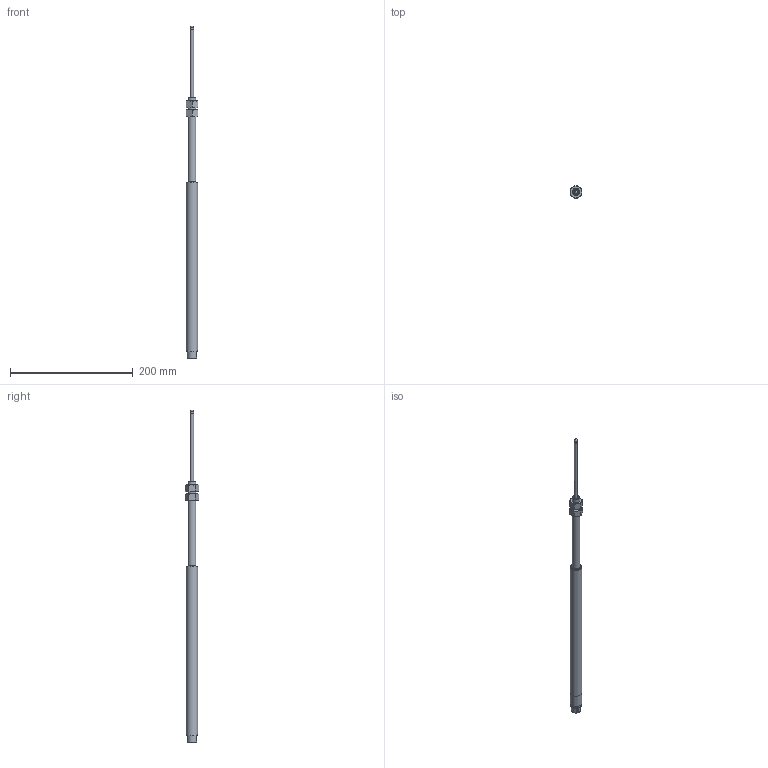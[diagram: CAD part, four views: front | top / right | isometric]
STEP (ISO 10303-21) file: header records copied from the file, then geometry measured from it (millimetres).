
FILE_DESCRIPTION(/* description */ (''),/* implementation_level */ '2;1');
FILE_NAME(/* name */ 'C:\Users\Justin\Documents\CAD Drawings\The Sensor Connection\3D\LVDT\GH SERIES\GH-750-A-XXXX\GH-750-A-2000\GH-750-A-2000 ASS''Y.step',/* time_stamp */ '2019-02-28T14:55:38-05:00',/* author */ ('Justin'),/* organization */ (''),/* preprocessor_version */ 'ST-DEVELOPER v17.2',/* originating_system */ 'Autodesk Inventor 2019',/* authorisation */ '');
FILE_SCHEMA (('AUTOMOTIVE_DESIGN { 1 0 10303 214 3 1 1 }'));
Length unit declared in the file: inch
Products named in the file (4): GH-750-A-2000 ASS'Y; GH-750-A-2000 HOUSING_SW; GH-750-A-2000 SHAFT_SW; AS 2465 - 1/2  UNF
Assembly tree (4 placements, depth 2):
  GH-750-A-2000 ASS'Y
    GH-750-A-2000 HOUSING_SW
    GH-750-A-2000 SHAFT_SW
    AS 2465 - 1/2  UNF  x2
Bounding box: 19.05 x 22 x 541.43 mm (x, y, z)
Volume: 48594.6 mm3; surface area: 50972.6 mm2
Topology: 12 solids, 12 shells, 172 faces, 355 edges, 228 vertices
Faces by surface type: plane 69, cylinder 53, cone 44, torus 4, bspline 1, sphere 1
Full cylindrical faces by diameter (mm): 0.762 x12, 2.845 x3, 4.826 x2, 5.334 x4, 5.397 x1, 7.671 x2, 7.874 x1, 11.328 x2, 12.7 x1, 13.208 x1, 14.986 x1, 15.748 x2, 16.51 x1, 17.069 x1, 18.034 x1, 18.415 x3, 19.05 x1
Entity records: 4442 total; most frequent: CARTESIAN_POINT 842, DIRECTION 758, ORIENTED_EDGE 606, AXIS2_PLACEMENT_3D 323, EDGE_CURVE 303, VERTEX_POINT 199, EDGE_LOOP 186, CIRCLE 167
